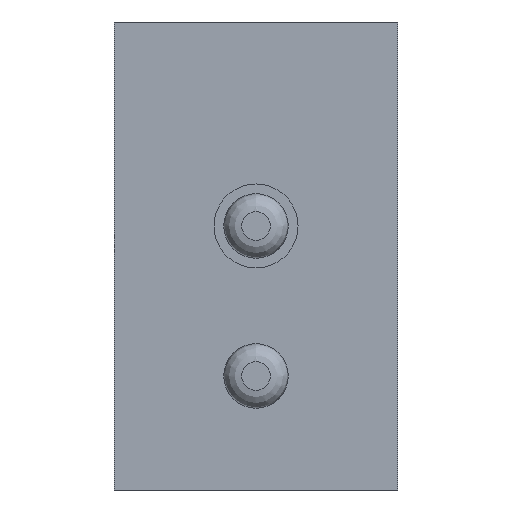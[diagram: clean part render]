
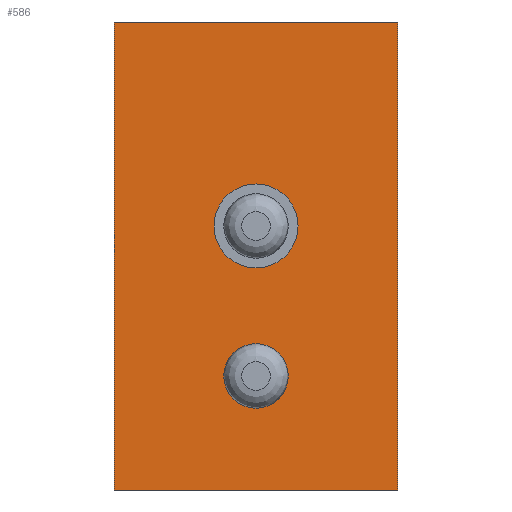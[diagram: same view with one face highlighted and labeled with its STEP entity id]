
A CAD part, front view. The second image highlights one B-rep face of the part: STEP entity #586.
In plain terms, the highlighted planar face has unit normal (0, -1, 0).
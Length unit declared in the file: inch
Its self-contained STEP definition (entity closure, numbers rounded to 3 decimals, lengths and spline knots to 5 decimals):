
#67=FACE_OUTER_BOUND('',#108,.T.);
#108=EDGE_LOOP('',(#411,#412,#413,#414));
#147=LINE('',#891,#203);
#151=LINE('',#899,#207);
#154=LINE('',#905,#210);
#157=LINE('',#910,#213);
#203=VECTOR('',#707,0.3937);
#207=VECTOR('',#713,0.3937);
#210=VECTOR('',#718,0.3937);
#213=VECTOR('',#723,0.3937);
#259=VERTEX_POINT('',#889);
#260=VERTEX_POINT('',#890);
#263=VERTEX_POINT('',#898);
#265=VERTEX_POINT('',#904);
#311=EDGE_CURVE('',#259,#260,#147,.T.);
#315=EDGE_CURVE('',#260,#263,#151,.T.);
#318=EDGE_CURVE('',#263,#265,#154,.T.);
#321=EDGE_CURVE('',#265,#259,#157,.T.);
#411=ORIENTED_EDGE('',*,*,#321,.T.);
#412=ORIENTED_EDGE('',*,*,#311,.T.);
#413=ORIENTED_EDGE('',*,*,#315,.T.);
#414=ORIENTED_EDGE('',*,*,#318,.T.);
#556=PLANE('',#645);
#586=ADVANCED_FACE('',(#67),#556,.F.);
#645=AXIS2_PLACEMENT_3D('',#913,#727,#728);
#707=DIRECTION('',(0.,0.,-1.));
#713=DIRECTION('',(1.,0.,0.));
#718=DIRECTION('',(0.,0.,1.));
#723=DIRECTION('',(-1.,0.,0.));
#727=DIRECTION('center_axis',(0.,1.,0.));
#728=DIRECTION('ref_axis',(1.,0.,0.));
#889=CARTESIAN_POINT('',(-0.11811,0.,0.195));
#890=CARTESIAN_POINT('',(-0.11811,0.,-0.195));
#891=CARTESIAN_POINT('',(-0.11811,0.,0.195));
#898=CARTESIAN_POINT('',(0.11811,0.,-0.195));
#899=CARTESIAN_POINT('',(-0.11811,0.,-0.195));
#904=CARTESIAN_POINT('',(0.11811,0.,0.195));
#905=CARTESIAN_POINT('',(0.11811,0.,-0.195));
#910=CARTESIAN_POINT('',(0.11811,0.,0.195));
#913=CARTESIAN_POINT('Origin',(0.,0.,0.));
